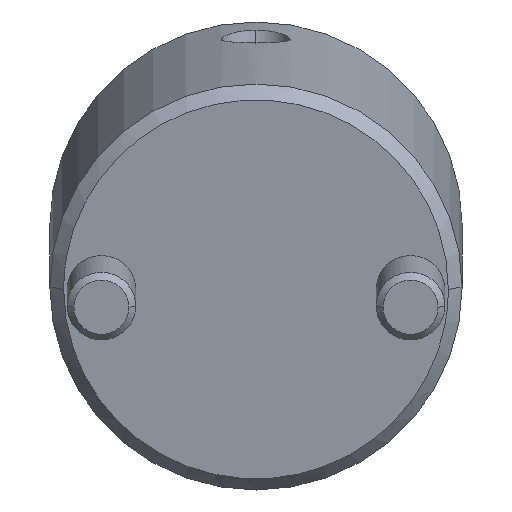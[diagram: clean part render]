
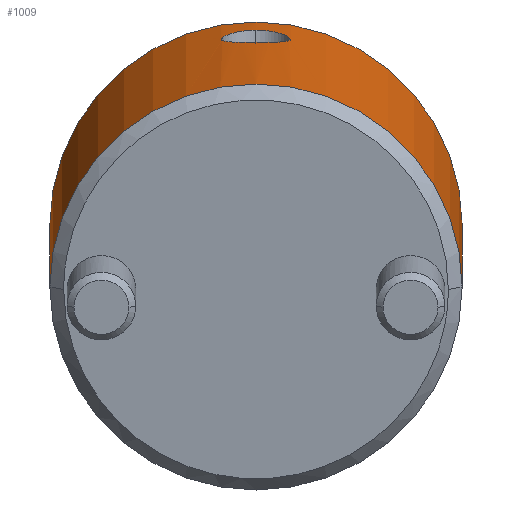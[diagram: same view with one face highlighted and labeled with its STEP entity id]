
A CAD part, front view. The second image highlights one B-rep face of the part: STEP entity #1009.
In plain terms, the highlighted cylindrical face has radius 15 mm (diameter 30 mm), a partial arc.
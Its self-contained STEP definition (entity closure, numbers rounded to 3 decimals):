
#778=CARTESIAN_POINT('Vertex',(0.,15.,1.)) ;
#781=CARTESIAN_POINT('Axis2P3D Location',(0.,0.,1.)) ;
#785=CARTESIAN_POINT('Vertex',(0.,-15.,1.)) ;
#925=CARTESIAN_POINT('Axis2P3D Location',(0.,0.,-1.4)) ;
#930=CARTESIAN_POINT('Line Origine',(0.,15.,-1.4)) ;
#934=CARTESIAN_POINT('Vertex',(0.,15.,27.)) ;
#937=CARTESIAN_POINT('Axis2P3D Location',(0.,0.,27.)) ;
#941=CARTESIAN_POINT('Vertex',(0.,-15.,27.)) ;
#944=CARTESIAN_POINT('Line Origine',(0.,-15.,-1.4)) ;
#956=CARTESIAN_POINT('Control Point',(15.,0.,23.558)) ;
#957=CARTESIAN_POINT('Control Point',(15.,0.148,23.558)) ;
#958=CARTESIAN_POINT('Control Point',(14.998,0.295,23.547)) ;
#959=CARTESIAN_POINT('Control Point',(14.995,0.443,23.524)) ;
#960=CARTESIAN_POINT('Control Point',(14.983,0.74,23.453)) ;
#961=CARTESIAN_POINT('Control Point',(14.966,1.024,23.337)) ;
#962=CARTESIAN_POINT('Control Point',(14.956,1.158,23.27)) ;
#963=CARTESIAN_POINT('Control Point',(14.912,1.684,22.951)) ;
#964=CARTESIAN_POINT('Control Point',(14.856,2.104,22.481)) ;
#965=CARTESIAN_POINT('Control Point',(14.817,2.342,22.055)) ;
#966=CARTESIAN_POINT('Control Point',(14.776,2.583,21.193)) ;
#967=CARTESIAN_POINT('Control Point',(14.797,2.461,20.324)) ;
#968=CARTESIAN_POINT('Control Point',(14.819,2.331,19.951)) ;
#969=CARTESIAN_POINT('Control Point',(14.868,2.017,19.415)) ;
#970=CARTESIAN_POINT('Control Point',(14.92,1.563,19.004)) ;
#971=CARTESIAN_POINT('Control Point',(14.939,1.373,18.868)) ;
#972=CARTESIAN_POINT('Control Point',(14.97,0.999,18.661)) ;
#973=CARTESIAN_POINT('Control Point',(14.991,0.581,18.538)) ;
#974=CARTESIAN_POINT('Control Point',(14.997,0.386,18.499)) ;
#975=CARTESIAN_POINT('Control Point',(15.,0.193,18.481)) ;
#976=CARTESIAN_POINT('Control Point',(15.,0.,18.481)) ;
#977=CARTESIAN_POINT('Vertex',(15.,0.,23.558)) ;
#979=CARTESIAN_POINT('Vertex',(15.,0.,18.481)) ;
#983=CARTESIAN_POINT('Control Point',(15.,0.,18.481)) ;
#984=CARTESIAN_POINT('Control Point',(15.,-0.15,18.481)) ;
#985=CARTESIAN_POINT('Control Point',(14.998,-0.301,18.492)) ;
#986=CARTESIAN_POINT('Control Point',(14.994,-0.452,18.514)) ;
#987=CARTESIAN_POINT('Control Point',(14.983,-0.754,18.584)) ;
#988=CARTESIAN_POINT('Control Point',(14.965,-1.044,18.698)) ;
#989=CARTESIAN_POINT('Control Point',(14.954,-1.18,18.765)) ;
#990=CARTESIAN_POINT('Control Point',(14.909,-1.708,19.076)) ;
#991=CARTESIAN_POINT('Control Point',(14.853,-2.126,19.537)) ;
#992=CARTESIAN_POINT('Control Point',(14.815,-2.354,19.952)) ;
#993=CARTESIAN_POINT('Control Point',(14.772,-2.607,20.88)) ;
#994=CARTESIAN_POINT('Control Point',(14.803,-2.425,21.838)) ;
#995=CARTESIAN_POINT('Control Point',(14.838,-2.223,22.287)) ;
#996=CARTESIAN_POINT('Control Point',(14.892,-1.843,22.794)) ;
#997=CARTESIAN_POINT('Control Point',(14.94,-1.346,23.156)) ;
#998=CARTESIAN_POINT('Control Point',(14.952,-1.216,23.237)) ;
#999=CARTESIAN_POINT('Control Point',(14.975,-0.909,23.396)) ;
#1000=CARTESIAN_POINT('Control Point',(14.991,-0.572,23.5)) ;
#1001=CARTESIAN_POINT('Control Point',(14.997,-0.381,23.54)) ;
#1002=CARTESIAN_POINT('Control Point',(15.,-0.191,23.558)) ;
#1003=CARTESIAN_POINT('Control Point',(15.,0.,23.558)) ;
#782=DIRECTION('Axis2P3D Direction',(0.,0.,1.)) ;
#926=DIRECTION('Axis2P3D Direction',(0.,-0.,1.)) ;
#927=DIRECTION('Axis2P3D XDirection',(0.,-1.,0.)) ;
#931=DIRECTION('Vector Direction',(0.,0.,1.)) ;
#938=DIRECTION('Axis2P3D Direction',(0.,-0.,1.)) ;
#945=DIRECTION('Vector Direction',(0.,0.,1.)) ;
#783=AXIS2_PLACEMENT_3D('Circle Axis2P3D',#781,#782,$) ;
#928=AXIS2_PLACEMENT_3D('Cylinder Axis2P3D',#925,#926,#927) ;
#939=AXIS2_PLACEMENT_3D('Circle Axis2P3D',#937,#938,$) ;
#950=ORIENTED_EDGE('',*,*,#936,.F.) ;
#951=ORIENTED_EDGE('',*,*,#943,.T.) ;
#952=ORIENTED_EDGE('',*,*,#948,.T.) ;
#953=ORIENTED_EDGE('',*,*,#787,.F.) ;
#1006=ORIENTED_EDGE('',*,*,#981,.T.) ;
#1007=ORIENTED_EDGE('',*,*,#1004,.T.) ;
#1008=FACE_BOUND('',#1005,.T.) ;
#932=VECTOR('Line Direction',#931,1.) ;
#946=VECTOR('Line Direction',#945,1.) ;
#1009=ADVANCED_FACE('MANIFOLD_SOLID_BREP #1110',(#954,#1008),#929,.T.) ;
#955=B_SPLINE_CURVE_WITH_KNOTS('',5,(#956,#957,#958,#959,#960,#961,#962,#963,#964,#965,#966,#967,#968,#969,#970,#971,#972,#973,#974,#975,#976),.UNSPECIFIED.,.F.,.U.,(6,3,3,3,3,3,6),(0.,1.072,2.161,5.477,8.197,9.822,11.218),.UNSPECIFIED.) ;
#982=B_SPLINE_CURVE_WITH_KNOTS('',5,(#983,#984,#985,#986,#987,#988,#989,#990,#991,#992,#993,#994,#995,#996,#997,#998,#999,#1000,#1001,#1002,#1003),.UNSPECIFIED.,.F.,.U.,(6,3,3,3,3,3,6),(0.,1.094,2.185,5.464,8.768,9.848,11.223),.UNSPECIFIED.) ;
#784=CIRCLE('generated circle',#783,15.) ;
#940=CIRCLE('generated circle',#939,15.) ;
#929=CYLINDRICAL_SURFACE('generated cylinder',#928,15.) ;
#787=EDGE_CURVE('',#779,#786,#784,.F.) ;
#936=EDGE_CURVE('',#935,#779,#933,.F.) ;
#943=EDGE_CURVE('',#935,#942,#940,.F.) ;
#948=EDGE_CURVE('',#942,#786,#947,.F.) ;
#981=EDGE_CURVE('',#978,#980,#955,.T.) ;
#1004=EDGE_CURVE('',#980,#978,#982,.T.) ;
#949=EDGE_LOOP('',(#950,#951,#952,#953)) ;
#1005=EDGE_LOOP('',(#1006,#1007)) ;
#954=FACE_OUTER_BOUND('',#949,.T.) ;
#933=LINE('Line',#930,#932) ;
#947=LINE('Line',#944,#946) ;
#779=VERTEX_POINT('',#778) ;
#786=VERTEX_POINT('',#785) ;
#935=VERTEX_POINT('',#934) ;
#942=VERTEX_POINT('',#941) ;
#978=VERTEX_POINT('',#977) ;
#980=VERTEX_POINT('',#979) ;
